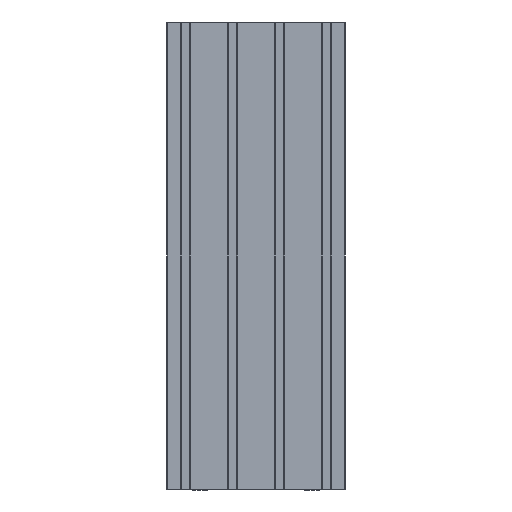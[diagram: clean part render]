
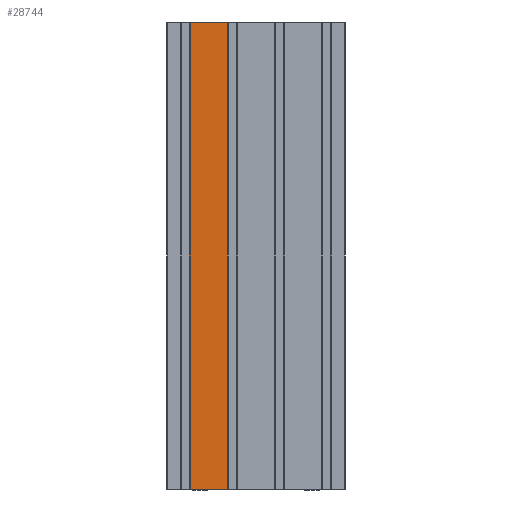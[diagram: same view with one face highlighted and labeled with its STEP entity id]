
A CAD part, front view. The second image highlights one B-rep face of the part: STEP entity #28744.
In plain terms, the highlighted planar face has unit normal (0, -1, 0).
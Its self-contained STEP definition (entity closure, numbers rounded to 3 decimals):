
#4387 = CARTESIAN_POINT ( 'NONE',  ( -69.95, 0., 0. ) ) ;
#4405 = CARTESIAN_POINT ( 'NONE',  ( -30.05, 0., -496. ) ) ;
#4446 = CARTESIAN_POINT ( 'NONE',  ( -30.05, 0., 0. ) ) ;
#5066 = CARTESIAN_POINT ( 'NONE',  ( -69.95, 0., -496. ) ) ;
#21312 = AXIS2_PLACEMENT_3D ( 'NONE', #30514, #30523, #30524 ) ;
#24395 = FACE_OUTER_BOUND ( 'NONE', #34298, .T. ) ;
#28744 = ADVANCED_FACE ( 'NONE', ( #24395 ), #30521, .T. ) ;
#30514 = CARTESIAN_POINT ( 'NONE',  ( -29.05, 0., -496. ) ) ;
#30521 = PLANE ( 'NONE',  #21312 ) ;
#30523 = DIRECTION ( 'NONE',  ( 0., -1., 0. ) ) ;
#30524 = DIRECTION ( 'NONE',  ( 1., 0., 0. ) ) ;
#34298 = EDGE_LOOP ( 'NONE', ( #47489, #47490, #47491, #47492 ) ) ;
#44626 = EDGE_CURVE ( 'NONE', #67375, #67411, #66680, .T. ) ;
#44627 = EDGE_CURVE ( 'NONE', #69214, #67375, #66678, .T. ) ;
#44628 = EDGE_CURVE ( 'NONE', #67360, #69214, #66684, .T. ) ;
#44629 = EDGE_CURVE ( 'NONE', #67360, #67411, #66686, .T. ) ;
#47489 = ORIENTED_EDGE ( 'NONE', *, *, #44629, .F. ) ;
#47490 = ORIENTED_EDGE ( 'NONE', *, *, #44628, .T. ) ;
#47491 = ORIENTED_EDGE ( 'NONE', *, *, #44627, .T. ) ;
#47492 = ORIENTED_EDGE ( 'NONE', *, *, #44626, .T. ) ;
#66678 = LINE ( 'NONE', #68718, #66685 ) ;
#66680 = LINE ( 'NONE', #68749, #66683 ) ;
#66683 = VECTOR ( 'NONE', #68752, 1000. ) ;
#66684 = LINE ( 'NONE', #71308, #66687 ) ;
#66685 = VECTOR ( 'NONE', #68754, 1000. ) ;
#66686 = LINE ( 'NONE', #71313, #66689 ) ;
#66687 = VECTOR ( 'NONE', #71311, 1000. ) ;
#66689 = VECTOR ( 'NONE', #71316, 1000. ) ;
#67360 = VERTEX_POINT ( 'NONE', #4387 ) ;
#67375 = VERTEX_POINT ( 'NONE', #4405 ) ;
#67411 = VERTEX_POINT ( 'NONE', #4446 ) ;
#68718 = CARTESIAN_POINT ( 'NONE',  ( -29.05, 0., -496. ) ) ;
#68749 = CARTESIAN_POINT ( 'NONE',  ( -30.05, 0., -496. ) ) ;
#68752 = DIRECTION ( 'NONE',  ( 0., 0., 1. ) ) ;
#68754 = DIRECTION ( 'NONE',  ( 1., 0., 0. ) ) ;
#69214 = VERTEX_POINT ( 'NONE', #5066 ) ;
#71308 = CARTESIAN_POINT ( 'NONE',  ( -69.95, 0., -496. ) ) ;
#71311 = DIRECTION ( 'NONE',  ( 0., 0., -1. ) ) ;
#71313 = CARTESIAN_POINT ( 'NONE',  ( -29.05, 0., 0. ) ) ;
#71316 = DIRECTION ( 'NONE',  ( 1., 0., 0. ) ) ;
